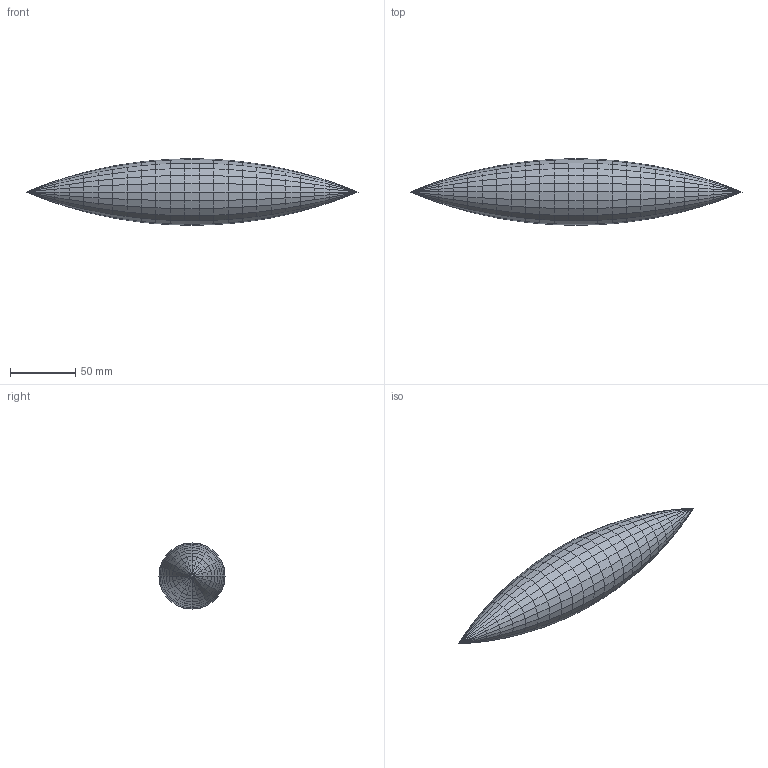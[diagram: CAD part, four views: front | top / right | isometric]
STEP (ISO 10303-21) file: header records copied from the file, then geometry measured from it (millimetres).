
FILE_DESCRIPTION(('STEP AP214'),'1');
FILE_NAME('ogive.step','2023-02-06T06:02:04',(' '),('ANSOFT Corporation'),'Spatial InterOp 3D',' ',' ');
FILE_SCHEMA(('AUTOMOTIVE_DESIGN { 1 0 10303 214 1 1 1 1 }'));
Length unit declared in the file: inch
Products named in the file (1): EquationCurve1
Bounding box: 254 x 50.71 x 50.71 mm (x, y, z)
Volume: 273655.4 mm3; surface area: 27527.9 mm2
Topology: 1 solids, 1 shells, 552 faces, 1080 edges, 530 vertices
Faces by surface type: plane 552
Entity records: 13068 total; most frequent: DIRECTION 2186, CARTESIAN_POINT 2163, ORIENTED_EDGE 2160, EDGE_CURVE 1080, LINE 1080, VECTOR 1080, AXIS2_PLACEMENT_3D 553, ADVANCED_FACE 552
